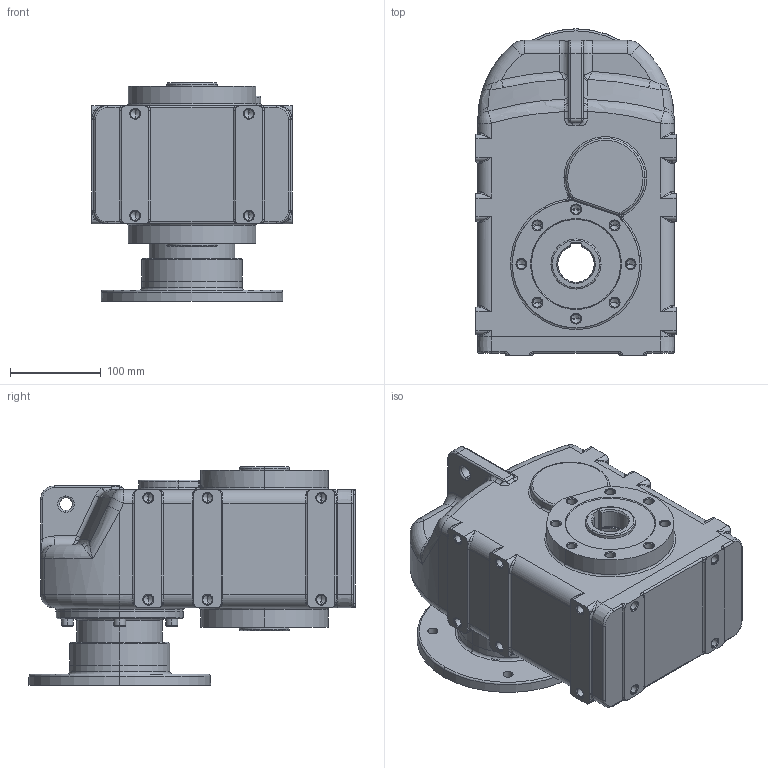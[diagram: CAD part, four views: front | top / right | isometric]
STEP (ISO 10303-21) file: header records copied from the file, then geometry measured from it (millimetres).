
FILE_DESCRIPTION (( 'STEP AP214' ), '1' );
FILE_NAME ('tnc32-f165-ap132.STEP', '2009-09-23T06:39:01', ( '' ), ( '' ), 'SwSTEP 2.0', 'SolidWorks 2003240', '' );
FILE_SCHEMA (( 'AUTOMOTIVE_DESIGN' ));
Products named in the file (4): Pøíruba MRT120 kulatá _130-165-188; Skøíò TNC3_Skøíò TNC32 AP132; tnc32-f165-ap132; N021143_Šroub s vnitøním šestihranem DIN 912 - M8x1 x 25
Assembly tree (8 placements, depth 2):
  tnc32-f165-ap132
    Skøíò TNC3_Skøíò TNC32 AP132
    N021143_Šroub s vnitøním šestihranem DIN 912 - M8x1 x 25  x6
    Pøíruba MRT120 kulatá _130-165-188
Bounding box: 220 x 359 x 240 mm (x, y, z)
Volume: 10029823.2 mm3; surface area: 478997.2 mm2
Topology: 8 solids, 8 shells, 965 faces, 2200 edges, 1217 vertices
Faces by surface type: cylinder 289, cone 273, plane 181, torus 158, bspline 60, sphere 4
Entity records: 85605 total; most frequent: CARTESIAN_POINT 65954, DIRECTION 4259, ORIENTED_EDGE 3688, EDGE_CURVE 1844, AXIS2_PLACEMENT_3D 1767, VERTEX_POINT 1087, CIRCLE 981, EDGE_LOOP 933
